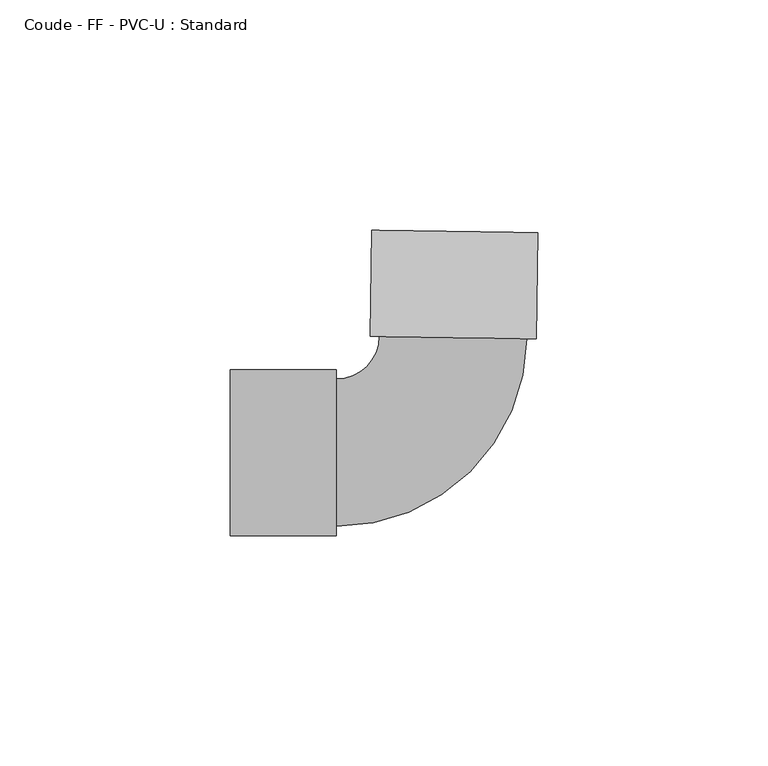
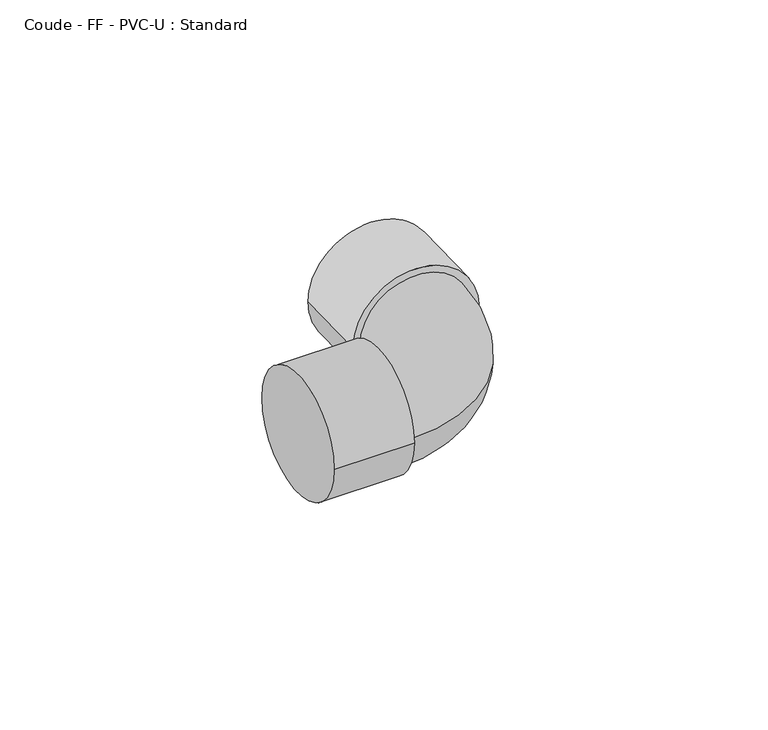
"""IFC4 building model written with IfcOpenShell, lengths in millimetres: pipe fitting geometry, Coude - FF - PVC-U : Standard."""

from ifc_helpers import new_model, si_unit, point, frame, origin, place, context, project, spatial, circle_curve, ellipse_curve, trimmed, source, transform, mapped, element, save
from ifc_brep_helpers import plane_surface, cylinder_surface, revolved_surface, advanced_brep


def coude_ff_pvc_u_standard_71dba424(model_context):
    return source(origin(), model_context, "Body", "AdvancedBrep", [
        advanced_brep(
        [(-48.0, -18.0, 0.0), (-48.0, 18.0, 0.0), (-25.0, -18.0, 0.0), (-25.0, 18.0, 0.0), (-25.0, -16.0, 0.0), (-25.0, 16.0, 0.0), (-15.6232435, 25.2371603, 0.0), (16.3731571, 24.7572156, 0.0), (18.3729322, 24.7272191, 0.0), (-17.6230185, 25.2671569, 0.0), (18.7178924, 47.724632, 0.0), (-17.2780583, 48.2645698, 0.0)],
        [
            (0, 1, circle_curve(frame((-48.0, 0.0, 0.0), z_axis=(-1.0, 0.0, 0.0), x_axis=(0.0, 1.0, 0.0)), 18.0)),
            (1, 0, circle_curve(frame((-48.0, 0.0, 0.0), z_axis=(-1.0, 0.0, 0.0), x_axis=(0.0, 1.0, 0.0)), 18.0)),
            (2, 3, circle_curve(frame((-25.0, 0.0, 0.0), z_axis=(1.0, 0.0, 0.0), x_axis=(0.0, 1.0, 0.0)), 18.0)),
            (3, 2, circle_curve(frame((-25.0, 0.0, 0.0), z_axis=(1.0, 0.0, 0.0), x_axis=(0.0, 1.0, 0.0)), 18.0)),
            (4, 5, circle_curve(frame((-25.0, 0.0, 0.0), z_axis=(-1.0, 0.0, 0.0), x_axis=(0.0, 1.0, 0.0)), 16.0)),
            (5, 4, circle_curve(frame((-25.0, 0.0, 0.0), z_axis=(-1.0, 0.0, 0.0), x_axis=(0.0, 1.0, 0.0)), 16.0)),
            (0, 2),
            (3, 1),
            (6, 5, circle_curve(frame((-25.0, 25.3778113, 0.0), z_axis=(0.0, 0.0, -1.0), x_axis=(0.0, -1.0, 0.0)), 9.3778113)),
            (4, 7, circle_curve(frame((-25.0, 25.3778113, 0.0), z_axis=(0.0, 0.0, 1.0), x_axis=(0.0, -1.0, 0.0)), 41.3778113)),
            (7, 6, circle_curve(frame((0.3749568, 24.997188, 0.0), z_axis=(-0.014998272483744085, -0.9998875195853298, 0.0), x_axis=(-0.9998875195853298, 0.014998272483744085, 0.0)), 16.0)),
            (6, 7, circle_curve(frame((0.3749568, 24.997188, 0.0), z_axis=(-0.014998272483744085, -0.9998875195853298, 0.0), x_axis=(-0.9998875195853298, 0.014998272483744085, 0.0)), 16.0)),
            (8, 9, circle_curve(frame((0.3749568, 24.997188, 0.0), z_axis=(-0.014998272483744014, -0.9998875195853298, 0.0), x_axis=(-0.9998875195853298, 0.014998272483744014, 0.0)), 18.0)),
            (9, 8, circle_curve(frame((0.3749568, 24.997188, 0.0), z_axis=(-0.014998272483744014, -0.9998875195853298, 0.0), x_axis=(-0.9998875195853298, 0.014998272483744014, 0.0)), 18.0)),
            (10, 11, circle_curve(frame((0.7199171, 47.9946009, 0.0), z_axis=(0.014998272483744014, 0.9998875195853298, 0.0), x_axis=(-0.9998875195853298, 0.014998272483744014, 0.0)), 18.0)),
            (11, 10, circle_curve(frame((0.7199171, 47.9946009, 0.0), z_axis=(0.014998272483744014, 0.9998875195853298, 0.0), x_axis=(-0.9998875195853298, 0.014998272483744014, 0.0)), 18.0)),
            (8, 10),
            (11, 9),
        ],
        [
            plane_surface(frame((-48.0, 0.0, 0.0), z_axis=(-1.0, 0.0, 0.0), x_axis=(0.0, 0.0, 1.0))),
            plane_surface(frame((-25.0, 0.0, 0.0), z_axis=(1.0, 0.0, 0.0), x_axis=(0.0, 0.0, 1.0))),
            cylinder_surface(frame((-48.0, 0.0, 0.0), z_axis=(-1.0, 0.0, 0.0), x_axis=(0.0, 1.0, 0.0)), 18.0),
            revolved_surface(trimmed(ellipse_curve(frame((-25.0, 0.0, 0.0), z_axis=(-1.0, 0.0, 0.0), x_axis=(0.0, 1.0, 0.0)), 16.0, 16.0), [point((-25.0, -16.0, 0.0))], [point((-25.0, 16.0, 0.0))], True, "CARTESIAN"), (-25.0, 25.3778113, 0.0), (0.0, 0.0, 1.0)),
            revolved_surface(trimmed(ellipse_curve(frame((-25.0, 0.0, 0.0), z_axis=(-1.0, 0.0, 0.0), x_axis=(0.0, 1.0, 0.0)), 16.0, 16.0), [point((-25.0, 16.0, 0.0))], [point((-25.0, -16.0, 0.0))], True, "CARTESIAN"), (-25.0, 25.3778113, 0.0), (0.0, 0.0, 1.0)),
            plane_surface(frame((0.3749568, 24.997188, 0.0), z_axis=(-0.014998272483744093, -0.9998875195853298, 0.0), x_axis=(0.0, 0.0, 1.0))),
            plane_surface(frame((0.7199171, 47.9946009, 0.0), z_axis=(0.014998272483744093, 0.9998875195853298, 0.0), x_axis=(0.0, 0.0, 1.0))),
            cylinder_surface(frame((0.3749568, 24.997188, 0.0), z_axis=(-0.014998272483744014, -0.9998875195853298, 0.0), x_axis=(-0.9998875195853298, 0.014998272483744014, 0.0)), 18.0),
        ],
        [
            (0, [[1, 2]]),
            (1, [[3, 4], [5, 6]]),
            (2, [[-1, 7, -4, 8]]),
            (2, [[-2, -8, -3, -7]]),
            (3, [[9, -5, 10, 11]]),
            (4, [[-9, 12, -10, -6]]),
            (5, [[13, 14], [-11, -12]]),
            (6, [[15, 16]]),
            (7, [[-13, 17, -16, 18]]),
            (7, [[-14, -18, -15, -17]]),
        ],
    ),
    ])


if __name__ == "__main__":
    model = new_model("IFC4")
    model_context = context("Model", 3, world=origin())
    ifc_project = project(units=[si_unit("LENGTHUNIT", "METRE", prefix="MILLI")], contexts=[model_context])
    site = spatial("IfcSite", under=ifc_project)
    building = spatial("IfcBuilding", under=site)
    placement = place(None, origin())
    coude_ff_pvc_u_standard_shape = coude_ff_pvc_u_standard_71dba424(model_context)
    element("IfcPipeFitting", 1, ObjectType="Coude - FF - PVC-U : Standard", at=placement, inside=building, context=model_context, shape_type="MappedRepresentation", body=[
        mapped(coude_ff_pvc_u_standard_shape, transform((0.0, 0.0, 0.0), x_axis=(1.0, 0.0, 0.0), y_axis=(0.0, 1.0, 0.0), z_axis=(0.0, 0.0, 1.0))),
    ])
    save(model, "model.ifc")
